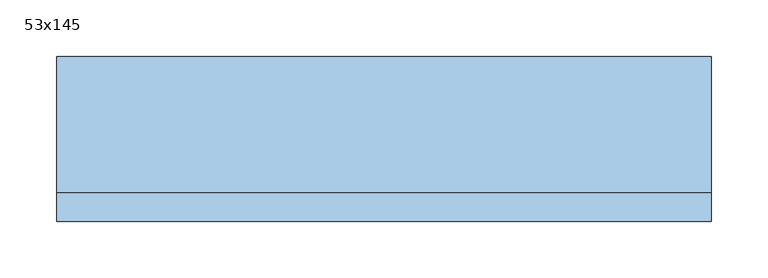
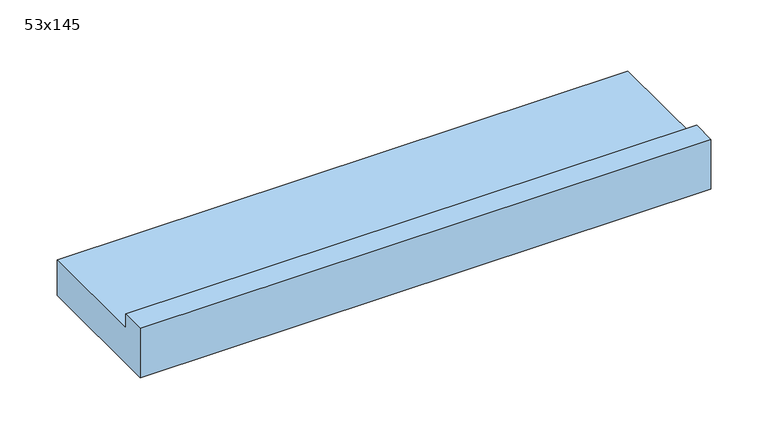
"""IFC4 building model written with IfcOpenShell, lengths in millimetres: window geometry, NLRS_30_WIN_spouwlat-onderdorpel_sh_gen_TOBA-JM : 53x145."""

from ifc_helpers import new_model, si_unit, frame, origin, place, context, project, spatial, polyline, outline, extrude, source, transform, mapped, element, save


def window_53x145_cc17f5d3(model_context):
    return source(origin(), model_context, "Body", "SweptSolid", [
        extrude(outline(polyline([(25.0, 0.0), (145.0, 0.0), (145.0, -38.0), (0.0, -38.0), (0.0, 15.0), (25.0, 15.0), (25.0, 0.0)])), frame((-288.0, 0.0, 0.0), z_axis=(1.0, 0.0, 0.0), x_axis=(0.0, 1.0, 0.0)), (0.0, 0.0, 1.0), 576.0),
    ])


if __name__ == "__main__":
    model = new_model("IFC4")
    model_context = context("Model", 3, world=origin())
    ifc_project = project(units=[si_unit("LENGTHUNIT", "METRE", prefix="MILLI")], contexts=[model_context])
    site = spatial("IfcSite", under=ifc_project)
    building = spatial("IfcBuilding", under=site)
    placement = place(None, origin())
    window_53x145_shape = window_53x145_cc17f5d3(model_context)
    element("IfcWindow", 1, ObjectType="NLRS_30_WIN_spouwlat-onderdorpel_sh_gen_TOBA-JM : 53x145", at=placement, inside=building, context=model_context, shape_type="MappedRepresentation", body=[
        mapped(window_53x145_shape, transform((0.0, 0.0, 0.0), x_axis=(1.0, 0.0, 0.0), y_axis=(0.0, 1.0, 0.0), z_axis=(0.0, 0.0, 1.0))),
    ])
    save(model, "model.ifc")
